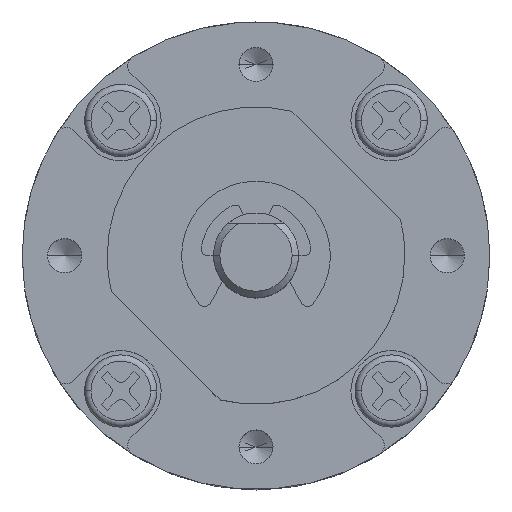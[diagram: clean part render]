
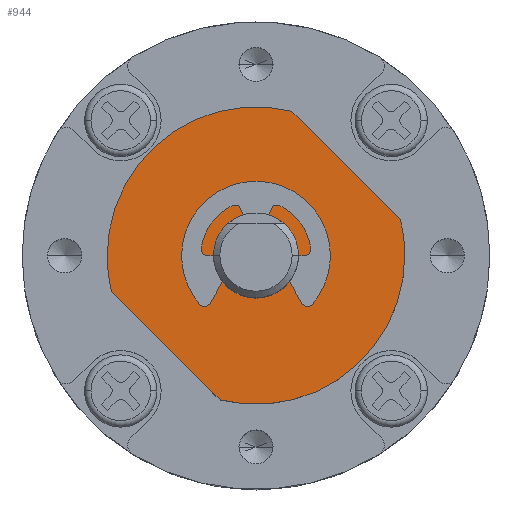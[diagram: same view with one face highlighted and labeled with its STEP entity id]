
A CAD part, top view. The second image highlights one B-rep face of the part: STEP entity #944.
In plain terms, the highlighted planar face has unit normal (0, 0, 1).
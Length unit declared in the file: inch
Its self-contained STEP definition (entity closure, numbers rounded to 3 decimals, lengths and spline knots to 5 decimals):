
#944=ADVANCED_FACE('NONE',(#1985,#1986),#1987,.F.);
#1985=FACE_OUTER_BOUND('',#3131,.T.);
#1986=FACE_BOUND('',#3132,.T.);
#1987=PLANE('',#3133);
#3131=EDGE_LOOP('',(#5813,#5814,#5815,#5816,#5817,#5818));
#3132=EDGE_LOOP('',(#5819,#5820));
#3133=AXIS2_PLACEMENT_3D('',#5821,#5822,#5823);
#5813=ORIENTED_EDGE('',*,*,#7320,.F.);
#5814=ORIENTED_EDGE('',*,*,#7085,.T.);
#5815=ORIENTED_EDGE('',*,*,#7577,.F.);
#5816=ORIENTED_EDGE('',*,*,#6739,.F.);
#5817=ORIENTED_EDGE('',*,*,#6973,.T.);
#5818=ORIENTED_EDGE('',*,*,#7558,.F.);
#5819=ORIENTED_EDGE('',*,*,#7857,.T.);
#5820=ORIENTED_EDGE('',*,*,#7499,.T.);
#5821=CARTESIAN_POINT('',(-0.16451,-0.10616,-0.20079));
#5822=DIRECTION('',(0.0,0.0,-1.0));
#5823=DIRECTION('',(0.0,-1.0,0.0));
#6739=EDGE_CURVE('NONE',#8039,#8040,#8041,.T.);
#6973=EDGE_CURVE('NONE',#8039,#8453,#8455,.T.);
#7085=EDGE_CURVE('NONE',#8639,#8644,#8646,.T.);
#7320=EDGE_CURVE('NONE',#8639,#9020,#9022,.T.);
#7499=EDGE_CURVE('NONE',#9286,#9284,#9287,.T.);
#7558=EDGE_CURVE('NONE',#9020,#8453,#9364,.T.);
#7577=EDGE_CURVE('NONE',#8040,#8644,#9390,.T.);
#7857=EDGE_CURVE('NONE',#9284,#9286,#9748,.T.);
#8039=VERTEX_POINT('NONE',#9945);
#8040=VERTEX_POINT('NONE',#9946);
#8041=CIRCLE('',#9947,0.27559);
#8453=VERTEX_POINT('NONE',#10461);
#8455=LINE('',#10464,#10465);
#8639=VERTEX_POINT('NONE',#10697);
#8644=VERTEX_POINT('NONE',#10704);
#8646=LINE('',#10707,#10708);
#9020=VERTEX_POINT('',#11204);
#9022=CIRCLE('',#11207,0.27559);
#9284=VERTEX_POINT('NONE',#11538);
#9286=VERTEX_POINT('NONE',#11541);
#9287=CIRCLE('',#11542,0.07874);
#9364=CIRCLE('',#11640,0.27559);
#9390=CIRCLE('',#11673,0.27559);
#9748=CIRCLE('',#12159,0.07874);
#9945=CARTESIAN_POINT('',(-0.43192,-0.09408,-0.20079));
#9946=CARTESIAN_POINT('',(-0.4401,-0.02742,-0.20079));
#9947=AXIS2_PLACEMENT_3D('',#12384,#12385,#12386);
#10461=CARTESIAN_POINT('',(-0.23117,-0.29483,-0.20079));
#10464=CARTESIAN_POINT('',(-0.29218,-0.23382,-0.20079));
#10465=VECTOR('',#12760,39.37008);
#10697=CARTESIAN_POINT('',(0.10289,0.03924,-0.20079));
#10704=CARTESIAN_POINT('',(-0.09785,0.23999,-0.20079));
#10707=CARTESIAN_POINT('',(0.04189,0.10024,-0.20079));
#10708=VECTOR('',#12951,39.37008);
#11204=CARTESIAN_POINT('',(0.11108,-0.02742,-0.20079));
#11207=AXIS2_PLACEMENT_3D('',#13290,#13291,#13292);
#11538=CARTESIAN_POINT('',(-0.24325,-0.02742,-0.20079));
#11541=CARTESIAN_POINT('',(-0.08577,-0.02742,-0.20079));
#11542=AXIS2_PLACEMENT_3D('',#13567,#13568,#13569);
#11640=AXIS2_PLACEMENT_3D('',#13645,#13646,#13647);
#11673=AXIS2_PLACEMENT_3D('',#13667,#13668,#13669);
#12159=AXIS2_PLACEMENT_3D('',#14022,#14023,#14024);
#12384=CARTESIAN_POINT('',(-0.16451,-0.02742,-0.20079));
#12385=DIRECTION('',(0.0,0.0,-1.0));
#12386=DIRECTION('',(-1.0,0.0,0.0));
#12760=DIRECTION('',(0.707,-0.707,0.0));
#12951=DIRECTION('',(-0.707,0.707,0.0));
#13290=CARTESIAN_POINT('',(-0.16451,-0.02742,-0.20079));
#13291=DIRECTION('',(0.0,0.0,-1.0));
#13292=DIRECTION('',(-1.0,0.0,0.0));
#13567=CARTESIAN_POINT('',(-0.16451,-0.02742,-0.20079));
#13568=DIRECTION('',(0.0,0.0,-1.0));
#13569=DIRECTION('',(-1.0,0.0,0.0));
#13645=CARTESIAN_POINT('',(-0.16451,-0.02742,-0.20079));
#13646=DIRECTION('',(0.0,0.0,-1.0));
#13647=DIRECTION('',(-1.0,0.0,0.0));
#13667=CARTESIAN_POINT('',(-0.16451,-0.02742,-0.20079));
#13668=DIRECTION('',(0.0,0.0,-1.0));
#13669=DIRECTION('',(-1.0,0.0,0.0));
#14022=CARTESIAN_POINT('',(-0.16451,-0.02742,-0.20079));
#14023=DIRECTION('',(0.0,0.0,-1.0));
#14024=DIRECTION('',(-1.0,0.0,0.0));
